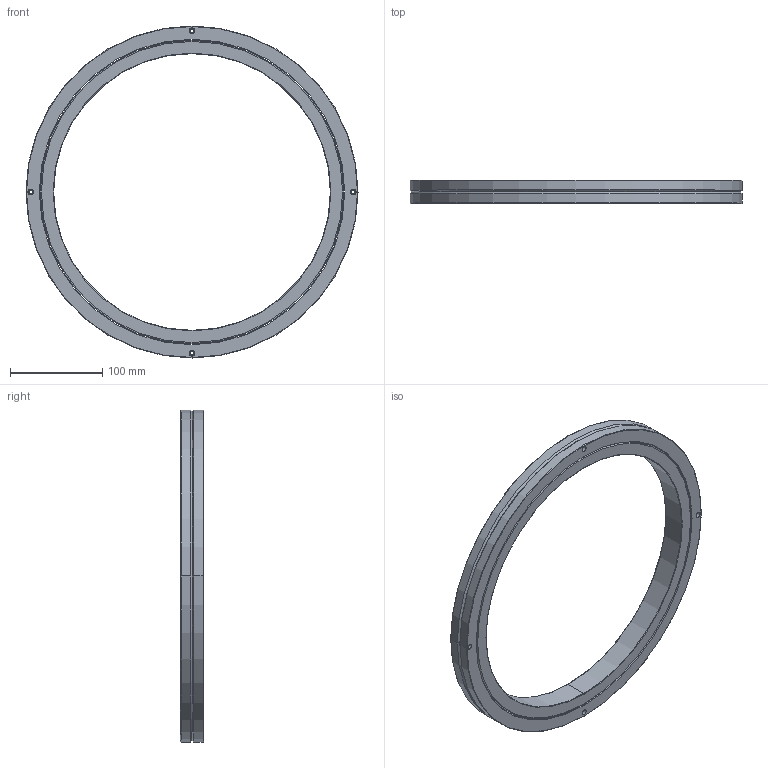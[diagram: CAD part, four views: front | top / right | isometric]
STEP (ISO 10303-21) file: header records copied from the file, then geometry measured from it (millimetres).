
FILE_DESCRIPTION((''),'2;1');
FILE_NAME('RB30025','2015-08-27T',('Administrator'),(''),'PRO/ENGINEER BY PARAMETRIC TECHNOLOGY CORPORATION, 2010180','PRO/ENGINEER BY PARAMETRIC TECHNOLOGY CORPORATION, 2010180','');
FILE_SCHEMA(('AUTOMOTIVE_DESIGN_CC2 { 1 2 10303 214 -1 1 5 2 }'));
Length unit declared in the file: millimetre
Products named in the file (1): RB30025
Bounding box: 360 x 25 x 360 mm (x, y, z)
Volume: 635904.3 mm3; surface area: 192080.8 mm2
Topology: 2 solids, 2 shells, 88 faces, 184 edges, 114 vertices
Faces by surface type: cylinder 50, plane 18, cone 12, torus 8
Entity records: 2497 total; most frequent: DIRECTION 482, CARTESIAN_POINT 386, ORIENTED_EDGE 368, AXIS2_PLACEMENT_3D 210, EDGE_CURVE 184, CIRCLE 122, VERTEX_POINT 114, EDGE_LOOP 114
